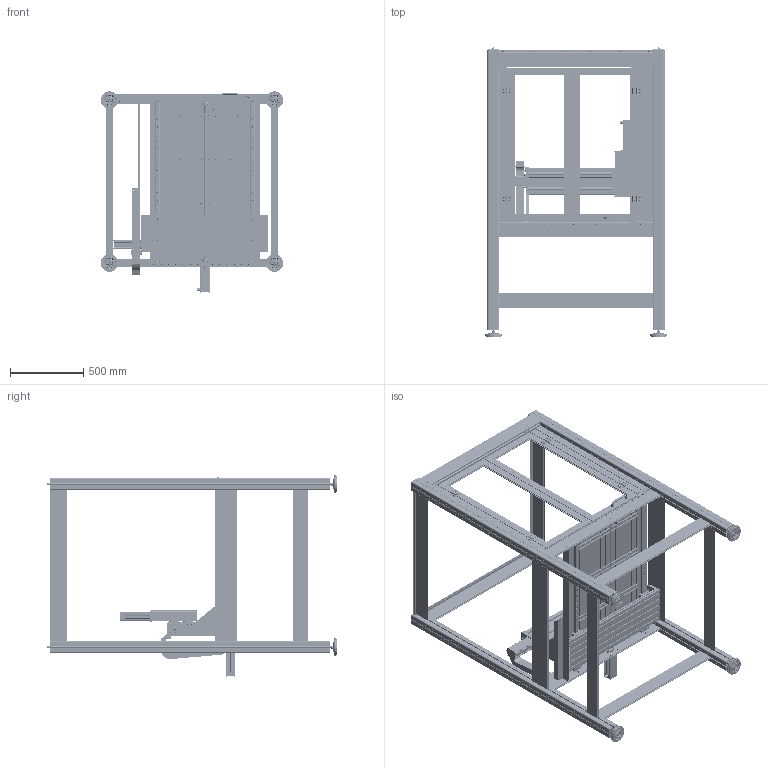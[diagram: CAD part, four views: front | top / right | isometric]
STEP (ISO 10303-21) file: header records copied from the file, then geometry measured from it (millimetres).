
FILE_DESCRIPTION (( 'STEP AP203' ), '1' );
FILE_NAME ('_-_X-Y-Z Flachbetteinheit FB2 - ArtNr 246203 2040M - ArtNr 248500 0040 - ArtNr 248200 2040 - ArtNr 230514M.step', '2015-04-23T05:58:53', ( '' ), ( '' ), 'SwSTEP 2.0', 'SolidWorks 2014', '' );
FILE_SCHEMA (( 'CONFIG_CONTROL_DESIGN' ));
Products named in the file (8): Untergestell 750x1100_f〉 Umhausung; Untergestell Baugruppe_750x1100 - f〉 Umhausung; Umhausung 750x1100; Umhausung Baugruppe_750x1100; _-_X-Y-Z Flachbetteinheit FB2 - ArtNr 246203 2040M - ArtNr 248500 0040 - ArtNr 248200 2040 - ArtNr 230514M; X-Y-Achse f黵 Verfahrweg 530; TE0179 - F黨rungsschlitten_F乭rungsschlitten f乺 KG-Mutter Typ25; Z-Achse FB2 Hub 70mm
Assembly tree (8 placements, depth 3):
  _-_X-Y-Z Flachbetteinheit FB2 - ArtNr 246203 2040M - ArtNr 248500 0040 - ArtNr 248200 2040 - ArtNr 230514M
    X-Y-Achse f黵 Verfahrweg 530
    TE0179 - F黨rungsschlitten_F乭rungsschlitten f乺 KG-Mutter Typ25  x2
    Z-Achse FB2 Hub 70mm
    Untergestell Baugruppe_750x1100 - f〉 Umhausung
      Untergestell 750x1100_f〉 Umhausung
    Umhausung Baugruppe_750x1100
      Umhausung 750x1100
Bounding box: 1249.73 x 1989.05 x 1378.16 mm (x, y, z)
Volume: 57037622.6 mm3; surface area: 37462814.5 mm2
Topology: 589 solids, 590 shells, 22159 faces, 58566 edges, 37909 vertices
Faces by surface type: plane 13336, cylinder 6770, cone 1130, torus 724, sphere 194, bspline 5
Full cylindrical faces by diameter (mm): 1.5 x16, 1.7 x1, 2 x6, 2.33 x2, 2.4 x2, 2.5 x38, 3 x20, 3.2 x19, 3.3 x8, 3.7 x1, 4 x51, 4.2 x16, 4.3 x12, 4.5 x24, 4.6 x5, 4.8 x8, 4.819 x8, 5 x98, 5.2 x43, 5.5 x25, 6 x296, 6.1 x8, 6.35 x2, 6.4 x13, 6.5 x74, 6.6 x69, 7 x237, 7.2 x3, 7.5 x38, 8 x30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
Entity records: 698476 total; most frequent: CARTESIAN_POINT 175369, ORIENTED_EDGE 105832, DIRECTION 105438, EDGE_CURVE 52916, AXIS2_PLACEMENT_3D 36584, VERTEX_POINT 36145, LINE 32270, VECTOR 32270
